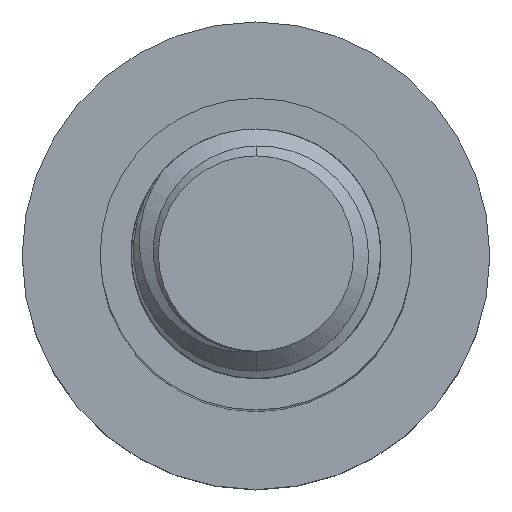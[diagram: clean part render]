
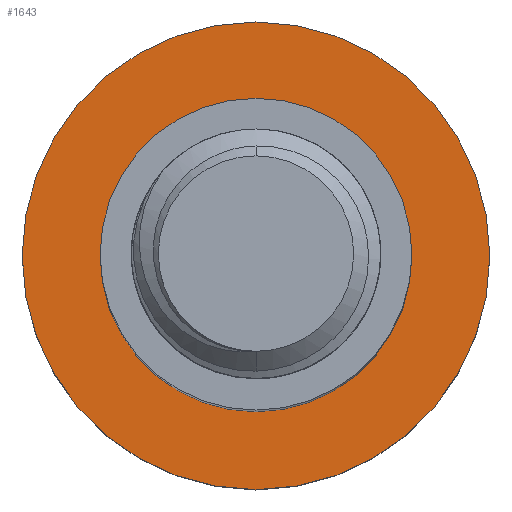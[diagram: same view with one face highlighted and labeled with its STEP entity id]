
A CAD part, top view. The second image highlights one B-rep face of the part: STEP entity #1643.
In plain terms, the highlighted planar face has unit normal (0, 0, 1).
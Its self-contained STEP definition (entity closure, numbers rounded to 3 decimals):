
#17 = CIRCLE ( 'NONE', #3139, 15. ) ;
#28 = DIRECTION ( 'NONE',  ( -1., 0., 0. ) ) ;
#103 = EDGE_CURVE ( 'NONE', #1806, #1661, #17, .T. ) ;
#460 = CARTESIAN_POINT ( 'NONE',  ( 0., 0., -60. ) ) ;
#494 = CARTESIAN_POINT ( 'NONE',  ( 10., 0., -60. ) ) ;
#503 = EDGE_CURVE ( 'NONE', #3586, #5448, #653, .T. ) ;
#612 = CARTESIAN_POINT ( 'NONE',  ( 0., 0., -60. ) ) ;
#625 = EDGE_CURVE ( 'NONE', #1661, #1806, #4233, .T. ) ;
#653 = CIRCLE ( 'NONE', #5520, 10. ) ;
#1241 = CARTESIAN_POINT ( 'NONE',  ( -10., 0., -60. ) ) ;
#1279 = ORIENTED_EDGE ( 'NONE', *, *, #503, .T. ) ;
#1372 = CARTESIAN_POINT ( 'NONE',  ( 15., 0., -60. ) ) ;
#1402 = DIRECTION ( 'NONE',  ( -1., 0., 0. ) ) ;
#1411 = DIRECTION ( 'NONE',  ( 0., 0., -1. ) ) ;
#1520 = DIRECTION ( 'NONE',  ( 0., 0., -1. ) ) ;
#1643 = ADVANCED_FACE ( 'NONE', ( #3157, #5699 ), #4104, .F. ) ;
#1661 = VERTEX_POINT ( 'NONE', #4869 ) ;
#1741 = EDGE_LOOP ( 'NONE', ( #1279, #2564 ) ) ;
#1806 = VERTEX_POINT ( 'NONE', #1372 ) ;
#2023 = DIRECTION ( 'NONE',  ( -1., 0., 0. ) ) ;
#2105 = ORIENTED_EDGE ( 'NONE', *, *, #103, .F. ) ;
#2353 = DIRECTION ( 'NONE',  ( 0., 0., -1. ) ) ;
#2564 = ORIENTED_EDGE ( 'NONE', *, *, #2623, .T. ) ;
#2575 = AXIS2_PLACEMENT_3D ( 'NONE', #460, #4898, #28 ) ;
#2623 = EDGE_CURVE ( 'NONE', #5448, #3586, #3420, .T. ) ;
#2828 = DIRECTION ( 'NONE',  ( -1., 0., 0. ) ) ;
#3042 = AXIS2_PLACEMENT_3D ( 'NONE', #3334, #5098, #2023 ) ;
#3044 = AXIS2_PLACEMENT_3D ( 'NONE', #612, #2353, #1402 ) ;
#3139 = AXIS2_PLACEMENT_3D ( 'NONE', #5359, #1411, #4927 ) ;
#3157 = FACE_BOUND ( 'NONE', #1741, .T. ) ;
#3334 = CARTESIAN_POINT ( 'NONE',  ( 0., 0., -60. ) ) ;
#3420 = CIRCLE ( 'NONE', #3044, 10. ) ;
#3569 = ORIENTED_EDGE ( 'NONE', *, *, #625, .F. ) ;
#3586 = VERTEX_POINT ( 'NONE', #1241 ) ;
#3680 = CARTESIAN_POINT ( 'NONE',  ( 0., 0., -60. ) ) ;
#4104 = PLANE ( 'NONE',  #2575 ) ;
#4233 = CIRCLE ( 'NONE', #3042, 15. ) ;
#4590 = EDGE_LOOP ( 'NONE', ( #2105, #3569 ) ) ;
#4869 = CARTESIAN_POINT ( 'NONE',  ( -15., 0., -60. ) ) ;
#4898 = DIRECTION ( 'NONE',  ( 0., 0., -1. ) ) ;
#4927 = DIRECTION ( 'NONE',  ( -1., 0., 0. ) ) ;
#5098 = DIRECTION ( 'NONE',  ( 0., 0., -1. ) ) ;
#5359 = CARTESIAN_POINT ( 'NONE',  ( 0., 0., -60. ) ) ;
#5448 = VERTEX_POINT ( 'NONE', #494 ) ;
#5520 = AXIS2_PLACEMENT_3D ( 'NONE', #3680, #1520, #2828 ) ;
#5699 = FACE_OUTER_BOUND ( 'NONE', #4590, .T. ) ;
